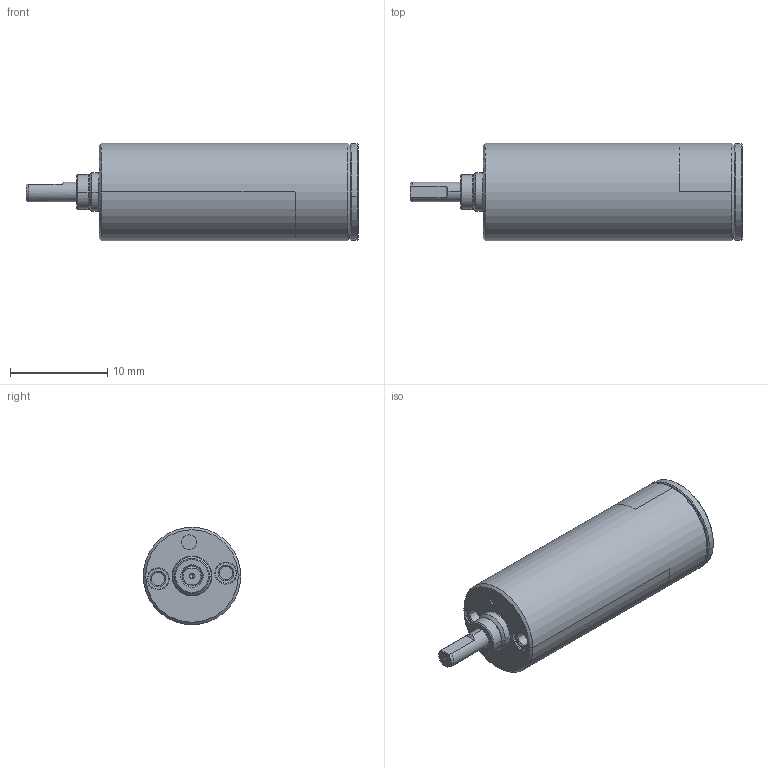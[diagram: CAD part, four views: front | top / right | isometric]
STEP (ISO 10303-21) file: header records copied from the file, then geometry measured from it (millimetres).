
FILE_DESCRIPTION((''),'2;1');
FILE_NAME('110308_GP10K_0_005NM_1ST_GL','2016-10-04T',('mmagvisi'),(''),'CREO PARAMETRIC BY PTC INC, 2016050','CREO PARAMETRIC BY PTC INC, 2016050','');
FILE_SCHEMA(('CONFIG_CONTROL_DESIGN'));
Length unit declared in the file: millimetre
Products named in the file (1): 110308_GP10K_0_005NM_1ST_GL
Bounding box: 34.1 x 10 x 10 mm (x, y, z)
Volume: 2090.9 mm3; surface area: 1109.1 mm2
Topology: 1 solids, 1 shells, 77 faces, 167 edges, 103 vertices
Faces by surface type: cone 35, cylinder 20, plane 16, torus 6
Entity records: 2738 total; most frequent: DIRECTION 416, CARTESIAN_POINT 369, ORIENTED_EDGE 330, AXIS2_PLACEMENT_3D 178, PRESENTATION_STYLE_ASSIGNMENT 166, STYLED_ITEM 166, CURVE_STYLE 165, EDGE_CURVE 165
